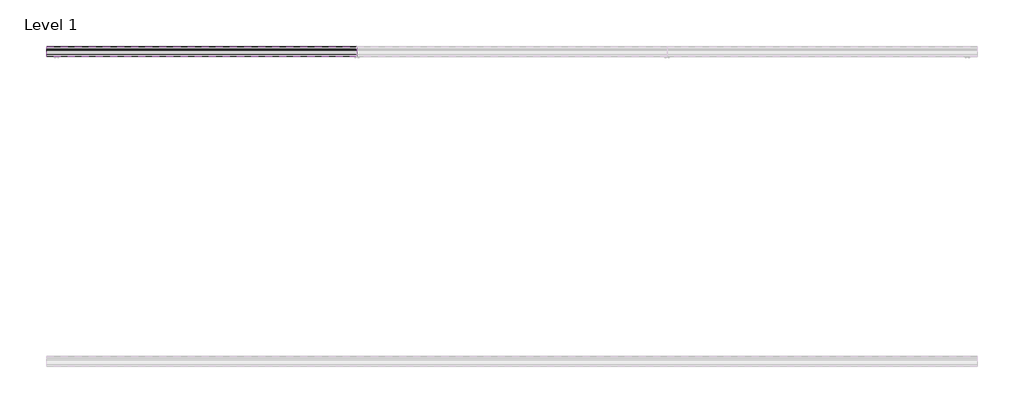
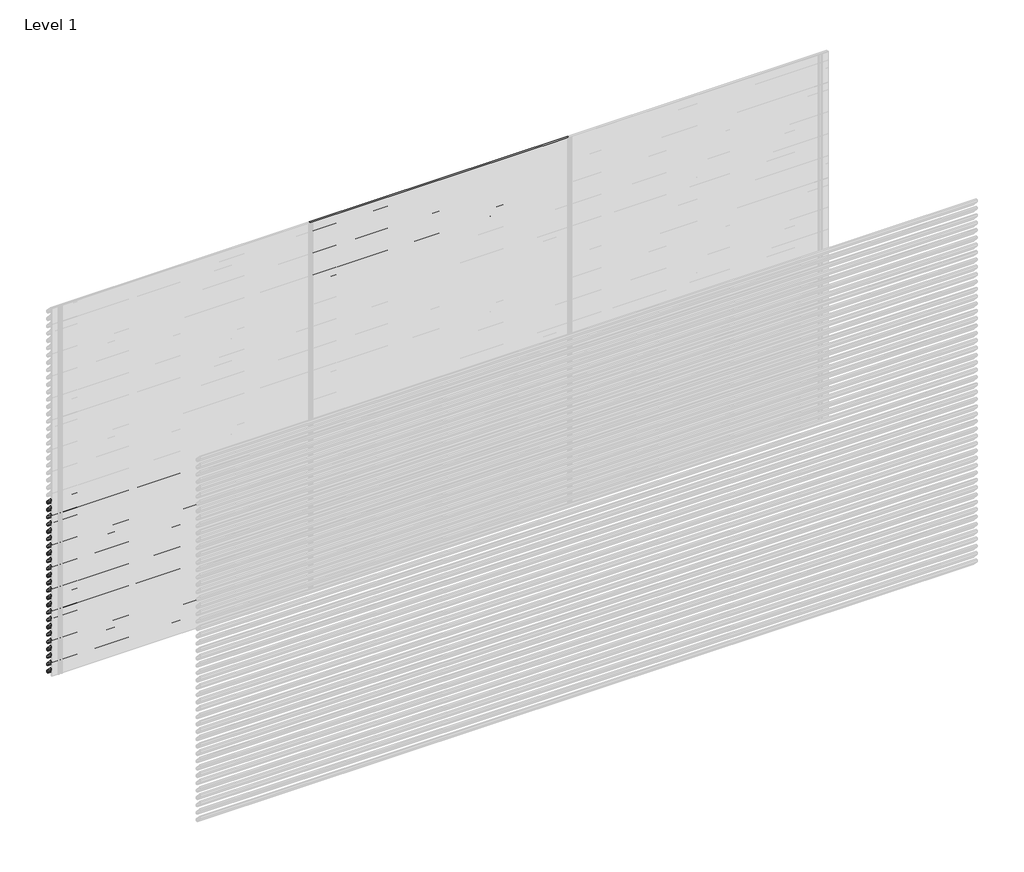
# One storey, part 144 of 153: 33 proxies.
"""IFC4 building model written with IfcOpenShell, lengths in millimetres."""

from ifc_helpers import new_model, si_unit, point, frame, frame_2d, origin, place, context, project, spatial, polyline, circle_curve, trimmed, segment, composite_curve, outline, extrude, element, save

model = new_model("IFC4")

# Units and contexts
model_context = context("Model", 3, world=origin())
ifc_project = project(units=[si_unit("LENGTHUNIT", "METRE", prefix="MILLI")], contexts=[model_context])

# Site, building, storey
site = spatial("IfcSite", under=ifc_project)
building = spatial("IfcBuilding", under=site)
storey = spatial("IfcBuildingStorey", under=building, Name="Level 1", Elevation=0.0)

# Proxies
placement = place(None, origin())
element("IfcBuildingElementProxy", 1, Name="Wall Sweeps", at=placement, inside=storey, context=model_context, shape_type="SweptSolid", body=[
    extrude(outline(composite_curve([segment(polyline([(73985.0540136, 1440.0), (73999.874191, 1438.7034025), (74049.0540136, 1385.0102749), (74049.0540136, 1373.6108187)]), True, "CONTINUOUS"), segment(trimmed(circle_curve(frame_2d((74045.7883652, 1373.897153)), 3.2781774), [point((74049.0540136, 1373.6108187))], [point((74046.4639442, 1370.6893438))], False, "CARTESIAN"), True, "CONTINUOUS"), segment(polyline([(74046.4639442, 1370.6893438), (74034.1895723, 1371.6282758), (73985.0540136, 1425.2730773), (73985.0540136, 1440.0)]), True, "CONTINUOUS")], self_intersect=False), holes=[composite_curve([segment(polyline([(73999.1621773, 1437.2599659), (73986.5540136, 1438.3630372), (73986.5540136, 1425.856213), (74034.8952036, 1373.0786805), (74046.3312542, 1372.2038762)]), True, "CONTINUOUS"), segment(trimmed(circle_curve(frame_2d((74045.7883652, 1373.897153)), 1.7781774), [point((74046.3312542, 1372.2038762))], [point((74047.5540136, 1373.6864389))], True, "CARTESIAN"), True, "CONTINUOUS"), segment(polyline([(74047.5540136, 1373.6864389), (74047.5540136, 1384.4271392), (73999.1621773, 1437.2599659)]), True, "CONTINUOUS")], self_intersect=False)]), frame((44966.6208097, 0.0, 0.0), z_axis=(1.0, 0.0, 0.0), x_axis=(0.0, 1.0, 0.0)), (0.0, 0.0, 1.0), 2000.0000001),
])
element("IfcBuildingElementProxy", 2, Name="Wall Sweeps", at=placement, inside=storey, context=model_context, shape_type="SweptSolid", body=[
    extrude(outline(composite_curve([segment(polyline([(73985.0540136, 1380.0), (73999.874191, 1378.7034025), (74049.0540136, 1325.0102749), (74049.0540136, 1313.6108187)]), True, "CONTINUOUS"), segment(trimmed(circle_curve(frame_2d((74045.7883652, 1313.897153)), 3.2781774), [point((74049.0540136, 1313.6108187))], [point((74046.4639442, 1310.6893438))], False, "CARTESIAN"), True, "CONTINUOUS"), segment(polyline([(74046.4639442, 1310.6893438), (74034.1895723, 1311.6282758), (73985.0540136, 1365.2730773), (73985.0540136, 1380.0)]), True, "CONTINUOUS")], self_intersect=False), holes=[composite_curve([segment(polyline([(73999.1621773, 1377.2599659), (73986.5540136, 1378.3630372), (73986.5540136, 1365.856213), (74034.8952036, 1313.0786805), (74046.3312542, 1312.2038762)]), True, "CONTINUOUS"), segment(trimmed(circle_curve(frame_2d((74045.7883652, 1313.897153)), 1.7781774), [point((74046.3312542, 1312.2038762))], [point((74047.5540136, 1313.6864389))], True, "CARTESIAN"), True, "CONTINUOUS"), segment(polyline([(74047.5540136, 1313.6864389), (74047.5540136, 1324.4271392), (73999.1621773, 1377.2599659)]), True, "CONTINUOUS")], self_intersect=False)]), frame((44966.6208097, 0.0, 0.0), z_axis=(1.0, 0.0, 0.0), x_axis=(0.0, 1.0, 0.0)), (0.0, 0.0, 1.0), 2000.0000001),
])
element("IfcBuildingElementProxy", 3, Name="Wall Sweeps", at=placement, inside=storey, context=model_context, shape_type="SweptSolid", body=[
    extrude(outline(composite_curve([segment(polyline([(73985.0540136, 1320.0), (73999.874191, 1318.7034025), (74049.0540136, 1265.0102749), (74049.0540136, 1253.6108187)]), True, "CONTINUOUS"), segment(trimmed(circle_curve(frame_2d((74045.7883652, 1253.897153)), 3.2781774), [point((74049.0540136, 1253.6108187))], [point((74046.4639442, 1250.6893438))], False, "CARTESIAN"), True, "CONTINUOUS"), segment(polyline([(74046.4639442, 1250.6893438), (74034.1895723, 1251.6282758), (73985.0540136, 1305.2730773), (73985.0540136, 1320.0)]), True, "CONTINUOUS")], self_intersect=False), holes=[composite_curve([segment(polyline([(73999.1621773, 1317.2599659), (73986.5540136, 1318.3630372), (73986.5540136, 1305.856213), (74034.8952036, 1253.0786805), (74046.3312542, 1252.2038762)]), True, "CONTINUOUS"), segment(trimmed(circle_curve(frame_2d((74045.7883652, 1253.897153)), 1.7781774), [point((74046.3312542, 1252.2038762))], [point((74047.5540136, 1253.6864389))], True, "CARTESIAN"), True, "CONTINUOUS"), segment(polyline([(74047.5540136, 1253.6864389), (74047.5540136, 1264.4271392), (73999.1621773, 1317.2599659)]), True, "CONTINUOUS")], self_intersect=False)]), frame((44966.6208097, 0.0, 0.0), z_axis=(1.0, 0.0, 0.0), x_axis=(0.0, 1.0, 0.0)), (0.0, 0.0, 1.0), 2000.0000001),
])
element("IfcBuildingElementProxy", 4, Name="Wall Sweeps", at=placement, inside=storey, context=model_context, shape_type="SweptSolid", body=[
    extrude(outline(composite_curve([segment(polyline([(73985.0540136, 1260.0), (73999.874191, 1258.7034025), (74049.0540136, 1205.0102749), (74049.0540136, 1193.6108187)]), True, "CONTINUOUS"), segment(trimmed(circle_curve(frame_2d((74045.7883652, 1193.897153)), 3.2781774), [point((74049.0540136, 1193.6108187))], [point((74046.4639442, 1190.6893438))], False, "CARTESIAN"), True, "CONTINUOUS"), segment(polyline([(74046.4639442, 1190.6893438), (74034.1895723, 1191.6282758), (73985.0540136, 1245.2730773), (73985.0540136, 1260.0)]), True, "CONTINUOUS")], self_intersect=False), holes=[composite_curve([segment(polyline([(73999.1621773, 1257.2599659), (73986.5540136, 1258.3630372), (73986.5540136, 1245.856213), (74034.8952036, 1193.0786805), (74046.3312542, 1192.2038762)]), True, "CONTINUOUS"), segment(trimmed(circle_curve(frame_2d((74045.7883652, 1193.897153)), 1.7781774), [point((74046.3312542, 1192.2038762))], [point((74047.5540136, 1193.6864389))], True, "CARTESIAN"), True, "CONTINUOUS"), segment(polyline([(74047.5540136, 1193.6864389), (74047.5540136, 1204.4271392), (73999.1621773, 1257.2599659)]), True, "CONTINUOUS")], self_intersect=False)]), frame((44966.6208097, 0.0, 0.0), z_axis=(1.0, 0.0, 0.0), x_axis=(0.0, 1.0, 0.0)), (0.0, 0.0, 1.0), 2000.0000001),
])
element("IfcBuildingElementProxy", 5, Name="Wall Sweeps", at=placement, inside=storey, context=model_context, shape_type="SweptSolid", body=[
    extrude(outline(composite_curve([segment(polyline([(73985.0540136, 1200.0), (73999.874191, 1198.7034025), (74049.0540136, 1145.0102749), (74049.0540136, 1133.6108187)]), True, "CONTINUOUS"), segment(trimmed(circle_curve(frame_2d((74045.7883652, 1133.897153)), 3.2781774), [point((74049.0540136, 1133.6108187))], [point((74046.4639442, 1130.6893438))], False, "CARTESIAN"), True, "CONTINUOUS"), segment(polyline([(74046.4639442, 1130.6893438), (74034.1895723, 1131.6282758), (73985.0540136, 1185.2730773), (73985.0540136, 1200.0)]), True, "CONTINUOUS")], self_intersect=False), holes=[composite_curve([segment(polyline([(73999.1621773, 1197.2599659), (73986.5540136, 1198.3630372), (73986.5540136, 1185.856213), (74034.8952036, 1133.0786805), (74046.3312542, 1132.2038762)]), True, "CONTINUOUS"), segment(trimmed(circle_curve(frame_2d((74045.7883652, 1133.897153)), 1.7781774), [point((74046.3312542, 1132.2038762))], [point((74047.5540136, 1133.6864389))], True, "CARTESIAN"), True, "CONTINUOUS"), segment(polyline([(74047.5540136, 1133.6864389), (74047.5540136, 1144.4271392), (73999.1621773, 1197.2599659)]), True, "CONTINUOUS")], self_intersect=False)]), frame((44966.6208097, 0.0, 0.0), z_axis=(1.0, 0.0, 0.0), x_axis=(0.0, 1.0, 0.0)), (0.0, 0.0, 1.0), 2000.0000001),
])
element("IfcBuildingElementProxy", 6, Name="Wall Sweeps", at=placement, inside=storey, context=model_context, shape_type="SweptSolid", body=[
    extrude(outline(composite_curve([segment(polyline([(73985.0540136, 1140.0), (73999.874191, 1138.7034025), (74049.0540136, 1085.0102749), (74049.0540136, 1073.6108187)]), True, "CONTINUOUS"), segment(trimmed(circle_curve(frame_2d((74045.7883652, 1073.897153)), 3.2781774), [point((74049.0540136, 1073.6108187))], [point((74046.4639442, 1070.6893438))], False, "CARTESIAN"), True, "CONTINUOUS"), segment(polyline([(74046.4639442, 1070.6893438), (74034.1895723, 1071.6282758), (73985.0540136, 1125.2730773), (73985.0540136, 1140.0)]), True, "CONTINUOUS")], self_intersect=False), holes=[composite_curve([segment(polyline([(73999.1621773, 1137.2599659), (73986.5540136, 1138.3630372), (73986.5540136, 1125.856213), (74034.8952036, 1073.0786805), (74046.3312542, 1072.2038762)]), True, "CONTINUOUS"), segment(trimmed(circle_curve(frame_2d((74045.7883652, 1073.897153)), 1.7781774), [point((74046.3312542, 1072.2038762))], [point((74047.5540136, 1073.6864389))], True, "CARTESIAN"), True, "CONTINUOUS"), segment(polyline([(74047.5540136, 1073.6864389), (74047.5540136, 1084.4271392), (73999.1621773, 1137.2599659)]), True, "CONTINUOUS")], self_intersect=False)]), frame((44966.6208097, 0.0, 0.0), z_axis=(1.0, 0.0, 0.0), x_axis=(0.0, 1.0, 0.0)), (0.0, 0.0, 1.0), 2000.0000001),
])
element("IfcBuildingElementProxy", 7, Name="Wall Sweeps", at=placement, inside=storey, context=model_context, shape_type="SweptSolid", body=[
    extrude(outline(composite_curve([segment(polyline([(73985.0540136, 1080.0), (73999.874191, 1078.7034025), (74049.0540136, 1025.0102749), (74049.0540136, 1013.6108187)]), True, "CONTINUOUS"), segment(trimmed(circle_curve(frame_2d((74045.7883652, 1013.897153)), 3.2781774), [point((74049.0540136, 1013.6108187))], [point((74046.4639442, 1010.6893438))], False, "CARTESIAN"), True, "CONTINUOUS"), segment(polyline([(74046.4639442, 1010.6893438), (74034.1895723, 1011.6282758), (73985.0540136, 1065.2730773), (73985.0540136, 1080.0)]), True, "CONTINUOUS")], self_intersect=False), holes=[composite_curve([segment(polyline([(73999.1621773, 1077.2599659), (73986.5540136, 1078.3630372), (73986.5540136, 1065.856213), (74034.8952036, 1013.0786805), (74046.3312542, 1012.2038762)]), True, "CONTINUOUS"), segment(trimmed(circle_curve(frame_2d((74045.7883652, 1013.897153)), 1.7781774), [point((74046.3312542, 1012.2038762))], [point((74047.5540136, 1013.6864389))], True, "CARTESIAN"), True, "CONTINUOUS"), segment(polyline([(74047.5540136, 1013.6864389), (74047.5540136, 1024.4271392), (73999.1621773, 1077.2599659)]), True, "CONTINUOUS")], self_intersect=False)]), frame((44966.6208097, 0.0, 0.0), z_axis=(1.0, 0.0, 0.0), x_axis=(0.0, 1.0, 0.0)), (0.0, 0.0, 1.0), 2000.0000001),
])
element("IfcBuildingElementProxy", 8, Name="Wall Sweeps", at=placement, inside=storey, context=model_context, shape_type="SweptSolid", body=[
    extrude(outline(composite_curve([segment(polyline([(73985.0540136, 1020.0), (73999.874191, 1018.7034025), (74049.0540136, 965.0102749), (74049.0540136, 953.6108187)]), True, "CONTINUOUS"), segment(trimmed(circle_curve(frame_2d((74045.7883652, 953.897153)), 3.2781774), [point((74049.0540136, 953.6108187))], [point((74046.4639442, 950.6893438))], False, "CARTESIAN"), True, "CONTINUOUS"), segment(polyline([(74046.4639442, 950.6893438), (74034.1895723, 951.6282758), (73985.0540136, 1005.2730773), (73985.0540136, 1020.0)]), True, "CONTINUOUS")], self_intersect=False), holes=[composite_curve([segment(polyline([(73999.1621773, 1017.2599659), (73986.5540136, 1018.3630372), (73986.5540136, 1005.856213), (74034.8952036, 953.0786805), (74046.3312542, 952.2038762)]), True, "CONTINUOUS"), segment(trimmed(circle_curve(frame_2d((74045.7883652, 953.897153)), 1.7781774), [point((74046.3312542, 952.2038762))], [point((74047.5540136, 953.6864389))], True, "CARTESIAN"), True, "CONTINUOUS"), segment(polyline([(74047.5540136, 953.6864389), (74047.5540136, 964.4271392), (73999.1621773, 1017.2599659)]), True, "CONTINUOUS")], self_intersect=False)]), frame((44966.6208097, 0.0, 0.0), z_axis=(1.0, 0.0, 0.0), x_axis=(0.0, 1.0, 0.0)), (0.0, 0.0, 1.0), 2000.0000001),
])
element("IfcBuildingElementProxy", 9, Name="Wall Sweeps", at=placement, inside=storey, context=model_context, shape_type="SweptSolid", body=[
    extrude(outline(composite_curve([segment(polyline([(73985.0540136, 960.0), (73999.874191, 958.7034025), (74049.0540136, 905.0102749), (74049.0540136, 893.6108187)]), True, "CONTINUOUS"), segment(trimmed(circle_curve(frame_2d((74045.7883652, 893.897153)), 3.2781774), [point((74049.0540136, 893.6108187))], [point((74046.4639442, 890.6893438))], False, "CARTESIAN"), True, "CONTINUOUS"), segment(polyline([(74046.4639442, 890.6893438), (74034.1895723, 891.6282758), (73985.0540136, 945.2730773), (73985.0540136, 960.0)]), True, "CONTINUOUS")], self_intersect=False), holes=[composite_curve([segment(polyline([(73999.1621773, 957.2599659), (73986.5540136, 958.3630372), (73986.5540136, 945.856213), (74034.8952036, 893.0786805), (74046.3312542, 892.2038762)]), True, "CONTINUOUS"), segment(trimmed(circle_curve(frame_2d((74045.7883652, 893.897153)), 1.7781774), [point((74046.3312542, 892.2038762))], [point((74047.5540136, 893.6864389))], True, "CARTESIAN"), True, "CONTINUOUS"), segment(polyline([(74047.5540136, 893.6864389), (74047.5540136, 904.4271392), (73999.1621773, 957.2599659)]), True, "CONTINUOUS")], self_intersect=False)]), frame((44966.6208097, 0.0, 0.0), z_axis=(1.0, 0.0, 0.0), x_axis=(0.0, 1.0, 0.0)), (0.0, 0.0, 1.0), 2000.0000001),
])
element("IfcBuildingElementProxy", 10, Name="Wall Sweeps", at=placement, inside=storey, context=model_context, shape_type="SweptSolid", body=[
    extrude(outline(composite_curve([segment(polyline([(73985.0540136, 900.0), (73999.874191, 898.7034025), (74049.0540136, 845.0102749), (74049.0540136, 833.6108187)]), True, "CONTINUOUS"), segment(trimmed(circle_curve(frame_2d((74045.7883652, 833.897153)), 3.2781774), [point((74049.0540136, 833.6108187))], [point((74046.4639442, 830.6893438))], False, "CARTESIAN"), True, "CONTINUOUS"), segment(polyline([(74046.4639442, 830.6893438), (74034.1895723, 831.6282758), (73985.0540136, 885.2730773), (73985.0540136, 900.0)]), True, "CONTINUOUS")], self_intersect=False), holes=[composite_curve([segment(polyline([(73999.1621773, 897.2599659), (73986.5540136, 898.3630372), (73986.5540136, 885.856213), (74034.8952036, 833.0786805), (74046.3312542, 832.2038762)]), True, "CONTINUOUS"), segment(trimmed(circle_curve(frame_2d((74045.7883652, 833.897153)), 1.7781774), [point((74046.3312542, 832.2038762))], [point((74047.5540136, 833.6864389))], True, "CARTESIAN"), True, "CONTINUOUS"), segment(polyline([(74047.5540136, 833.6864389), (74047.5540136, 844.4271392), (73999.1621773, 897.2599659)]), True, "CONTINUOUS")], self_intersect=False)]), frame((44966.6208097, 0.0, 0.0), z_axis=(1.0, 0.0, 0.0), x_axis=(0.0, 1.0, 0.0)), (0.0, 0.0, 1.0), 2000.0000001),
])
element("IfcBuildingElementProxy", 11, Name="Wall Sweeps", at=placement, inside=storey, context=model_context, shape_type="SweptSolid", body=[
    extrude(outline(composite_curve([segment(polyline([(73985.0540136, 840.0), (73999.874191, 838.7034025), (74049.0540136, 785.0102749), (74049.0540136, 773.6108187)]), True, "CONTINUOUS"), segment(trimmed(circle_curve(frame_2d((74045.7883652, 773.897153)), 3.2781774), [point((74049.0540136, 773.6108187))], [point((74046.4639442, 770.6893438))], False, "CARTESIAN"), True, "CONTINUOUS"), segment(polyline([(74046.4639442, 770.6893438), (74034.1895723, 771.6282758), (73985.0540136, 825.2730773), (73985.0540136, 840.0)]), True, "CONTINUOUS")], self_intersect=False), holes=[composite_curve([segment(polyline([(73999.1621773, 837.2599659), (73986.5540136, 838.3630372), (73986.5540136, 825.856213), (74034.8952036, 773.0786805), (74046.3312542, 772.2038762)]), True, "CONTINUOUS"), segment(trimmed(circle_curve(frame_2d((74045.7883652, 773.897153)), 1.7781774), [point((74046.3312542, 772.2038762))], [point((74047.5540136, 773.6864389))], True, "CARTESIAN"), True, "CONTINUOUS"), segment(polyline([(74047.5540136, 773.6864389), (74047.5540136, 784.4271392), (73999.1621773, 837.2599659)]), True, "CONTINUOUS")], self_intersect=False)]), frame((44966.6208097, 0.0, 0.0), z_axis=(1.0, 0.0, 0.0), x_axis=(0.0, 1.0, 0.0)), (0.0, 0.0, 1.0), 2000.0000001),
])
element("IfcBuildingElementProxy", 12, Name="Wall Sweeps", at=placement, inside=storey, context=model_context, shape_type="SweptSolid", body=[
    extrude(outline(composite_curve([segment(polyline([(73985.0540136, 780.0), (73999.874191, 778.7034025), (74049.0540136, 725.0102749), (74049.0540136, 713.6108187)]), True, "CONTINUOUS"), segment(trimmed(circle_curve(frame_2d((74045.7883652, 713.897153)), 3.2781774), [point((74049.0540136, 713.6108187))], [point((74046.4639442, 710.6893438))], False, "CARTESIAN"), True, "CONTINUOUS"), segment(polyline([(74046.4639442, 710.6893438), (74034.1895723, 711.6282758), (73985.0540136, 765.2730773), (73985.0540136, 780.0)]), True, "CONTINUOUS")], self_intersect=False), holes=[composite_curve([segment(polyline([(73999.1621773, 777.2599659), (73986.5540136, 778.3630372), (73986.5540136, 765.856213), (74034.8952036, 713.0786805), (74046.3312542, 712.2038762)]), True, "CONTINUOUS"), segment(trimmed(circle_curve(frame_2d((74045.7883652, 713.897153)), 1.7781774), [point((74046.3312542, 712.2038762))], [point((74047.5540136, 713.6864389))], True, "CARTESIAN"), True, "CONTINUOUS"), segment(polyline([(74047.5540136, 713.6864389), (74047.5540136, 724.4271392), (73999.1621773, 777.2599659)]), True, "CONTINUOUS")], self_intersect=False)]), frame((44966.6208097, 0.0, 0.0), z_axis=(1.0, 0.0, 0.0), x_axis=(0.0, 1.0, 0.0)), (0.0, 0.0, 1.0), 2000.0000001),
])
element("IfcBuildingElementProxy", 13, Name="Wall Sweeps", at=placement, inside=storey, context=model_context, shape_type="SweptSolid", body=[
    extrude(outline(composite_curve([segment(polyline([(73985.0540136, 720.0), (73999.874191, 718.7034025), (74049.0540136, 665.0102749), (74049.0540136, 653.6108187)]), True, "CONTINUOUS"), segment(trimmed(circle_curve(frame_2d((74045.7883652, 653.897153)), 3.2781774), [point((74049.0540136, 653.6108187))], [point((74046.4639442, 650.6893438))], False, "CARTESIAN"), True, "CONTINUOUS"), segment(polyline([(74046.4639442, 650.6893438), (74034.1895723, 651.6282758), (73985.0540136, 705.2730773), (73985.0540136, 720.0)]), True, "CONTINUOUS")], self_intersect=False), holes=[composite_curve([segment(polyline([(73999.1621773, 717.2599659), (73986.5540136, 718.3630372), (73986.5540136, 705.856213), (74034.8952036, 653.0786805), (74046.3312542, 652.2038762)]), True, "CONTINUOUS"), segment(trimmed(circle_curve(frame_2d((74045.7883652, 653.897153)), 1.7781774), [point((74046.3312542, 652.2038762))], [point((74047.5540136, 653.6864389))], True, "CARTESIAN"), True, "CONTINUOUS"), segment(polyline([(74047.5540136, 653.6864389), (74047.5540136, 664.4271392), (73999.1621773, 717.2599659)]), True, "CONTINUOUS")], self_intersect=False)]), frame((44966.6208097, 0.0, 0.0), z_axis=(1.0, 0.0, 0.0), x_axis=(0.0, 1.0, 0.0)), (0.0, 0.0, 1.0), 2000.0000001),
])
element("IfcBuildingElementProxy", 14, Name="Wall Sweeps", at=placement, inside=storey, context=model_context, shape_type="SweptSolid", body=[
    extrude(outline(composite_curve([segment(polyline([(73985.0540136, 660.0), (73999.874191, 658.7034025), (74049.0540136, 605.0102749), (74049.0540136, 593.6108187)]), True, "CONTINUOUS"), segment(trimmed(circle_curve(frame_2d((74045.7883652, 593.897153)), 3.2781774), [point((74049.0540136, 593.6108187))], [point((74046.4639442, 590.6893438))], False, "CARTESIAN"), True, "CONTINUOUS"), segment(polyline([(74046.4639442, 590.6893438), (74034.1895723, 591.6282758), (73985.0540136, 645.2730773), (73985.0540136, 660.0)]), True, "CONTINUOUS")], self_intersect=False), holes=[composite_curve([segment(polyline([(73999.1621773, 657.2599659), (73986.5540136, 658.3630372), (73986.5540136, 645.856213), (74034.8952036, 593.0786805), (74046.3312542, 592.2038762)]), True, "CONTINUOUS"), segment(trimmed(circle_curve(frame_2d((74045.7883652, 593.897153)), 1.7781774), [point((74046.3312542, 592.2038762))], [point((74047.5540136, 593.6864389))], True, "CARTESIAN"), True, "CONTINUOUS"), segment(polyline([(74047.5540136, 593.6864389), (74047.5540136, 604.4271392), (73999.1621773, 657.2599659)]), True, "CONTINUOUS")], self_intersect=False)]), frame((44966.6208097, 0.0, 0.0), z_axis=(1.0, 0.0, 0.0), x_axis=(0.0, 1.0, 0.0)), (0.0, 0.0, 1.0), 2000.0000001),
])
element("IfcBuildingElementProxy", 15, Name="Wall Sweeps", at=placement, inside=storey, context=model_context, shape_type="SweptSolid", body=[
    extrude(outline(composite_curve([segment(polyline([(73985.0540136, 600.0), (73999.874191, 598.7034025), (74049.0540136, 545.0102749), (74049.0540136, 533.6108187)]), True, "CONTINUOUS"), segment(trimmed(circle_curve(frame_2d((74045.7883652, 533.897153)), 3.2781774), [point((74049.0540136, 533.6108187))], [point((74046.4639442, 530.6893438))], False, "CARTESIAN"), True, "CONTINUOUS"), segment(polyline([(74046.4639442, 530.6893438), (74034.1895723, 531.6282758), (73985.0540136, 585.2730773), (73985.0540136, 600.0)]), True, "CONTINUOUS")], self_intersect=False), holes=[composite_curve([segment(polyline([(73999.1621773, 597.2599659), (73986.5540136, 598.3630372), (73986.5540136, 585.856213), (74034.8952036, 533.0786805), (74046.3312542, 532.2038762)]), True, "CONTINUOUS"), segment(trimmed(circle_curve(frame_2d((74045.7883652, 533.897153)), 1.7781774), [point((74046.3312542, 532.2038762))], [point((74047.5540136, 533.6864389))], True, "CARTESIAN"), True, "CONTINUOUS"), segment(polyline([(74047.5540136, 533.6864389), (74047.5540136, 544.4271392), (73999.1621773, 597.2599659)]), True, "CONTINUOUS")], self_intersect=False)]), frame((44966.6208097, 0.0, 0.0), z_axis=(1.0, 0.0, 0.0), x_axis=(0.0, 1.0, 0.0)), (0.0, 0.0, 1.0), 2000.0000001),
])
element("IfcBuildingElementProxy", 16, Name="Wall Sweeps", at=placement, inside=storey, context=model_context, shape_type="SweptSolid", body=[
    extrude(outline(composite_curve([segment(polyline([(73985.0540136, 540.0), (73999.874191, 538.7034025), (74049.0540136, 485.0102749), (74049.0540136, 473.6108187)]), True, "CONTINUOUS"), segment(trimmed(circle_curve(frame_2d((74045.7883652, 473.897153)), 3.2781774), [point((74049.0540136, 473.6108187))], [point((74046.4639442, 470.6893438))], False, "CARTESIAN"), True, "CONTINUOUS"), segment(polyline([(74046.4639442, 470.6893438), (74034.1895723, 471.6282758), (73985.0540136, 525.2730773), (73985.0540136, 540.0)]), True, "CONTINUOUS")], self_intersect=False), holes=[composite_curve([segment(polyline([(73999.1621773, 537.2599659), (73986.5540136, 538.3630372), (73986.5540136, 525.856213), (74034.8952036, 473.0786805), (74046.3312542, 472.2038762)]), True, "CONTINUOUS"), segment(trimmed(circle_curve(frame_2d((74045.7883652, 473.897153)), 1.7781774), [point((74046.3312542, 472.2038762))], [point((74047.5540136, 473.6864389))], True, "CARTESIAN"), True, "CONTINUOUS"), segment(polyline([(74047.5540136, 473.6864389), (74047.5540136, 484.4271392), (73999.1621773, 537.2599659)]), True, "CONTINUOUS")], self_intersect=False)]), frame((44966.6208097, 0.0, 0.0), z_axis=(1.0, 0.0, 0.0), x_axis=(0.0, 1.0, 0.0)), (0.0, 0.0, 1.0), 2000.0000001),
])
element("IfcBuildingElementProxy", 17, Name="Wall Sweeps", at=placement, inside=storey, context=model_context, shape_type="SweptSolid", body=[
    extrude(outline(composite_curve([segment(polyline([(73985.0540136, 480.0), (73999.874191, 478.7034025), (74049.0540136, 425.0102749), (74049.0540136, 413.6108187)]), True, "CONTINUOUS"), segment(trimmed(circle_curve(frame_2d((74045.7883652, 413.897153)), 3.2781774), [point((74049.0540136, 413.6108187))], [point((74046.4639442, 410.6893438))], False, "CARTESIAN"), True, "CONTINUOUS"), segment(polyline([(74046.4639442, 410.6893438), (74034.1895723, 411.6282758), (73985.0540136, 465.2730773), (73985.0540136, 480.0)]), True, "CONTINUOUS")], self_intersect=False), holes=[composite_curve([segment(polyline([(73999.1621773, 477.2599659), (73986.5540136, 478.3630372), (73986.5540136, 465.856213), (74034.8952036, 413.0786805), (74046.3312542, 412.2038762)]), True, "CONTINUOUS"), segment(trimmed(circle_curve(frame_2d((74045.7883652, 413.897153)), 1.7781774), [point((74046.3312542, 412.2038762))], [point((74047.5540136, 413.6864389))], True, "CARTESIAN"), True, "CONTINUOUS"), segment(polyline([(74047.5540136, 413.6864389), (74047.5540136, 424.4271392), (73999.1621773, 477.2599659)]), True, "CONTINUOUS")], self_intersect=False)]), frame((44966.6208097, 0.0, 0.0), z_axis=(1.0, 0.0, 0.0), x_axis=(0.0, 1.0, 0.0)), (0.0, 0.0, 1.0), 2000.0000001),
])
element("IfcBuildingElementProxy", 18, Name="Wall Sweeps", at=placement, inside=storey, context=model_context, shape_type="SweptSolid", body=[
    extrude(outline(composite_curve([segment(polyline([(73985.0540136, 420.0), (73999.874191, 418.7034025), (74049.0540136, 365.0102749), (74049.0540136, 353.6108187)]), True, "CONTINUOUS"), segment(trimmed(circle_curve(frame_2d((74045.7883652, 353.897153)), 3.2781774), [point((74049.0540136, 353.6108187))], [point((74046.4639442, 350.6893438))], False, "CARTESIAN"), True, "CONTINUOUS"), segment(polyline([(74046.4639442, 350.6893438), (74034.1895723, 351.6282758), (73985.0540136, 405.2730773), (73985.0540136, 420.0)]), True, "CONTINUOUS")], self_intersect=False), holes=[composite_curve([segment(polyline([(73999.1621773, 417.2599659), (73986.5540136, 418.3630372), (73986.5540136, 405.856213), (74034.8952036, 353.0786805), (74046.3312542, 352.2038762)]), True, "CONTINUOUS"), segment(trimmed(circle_curve(frame_2d((74045.7883652, 353.897153)), 1.7781774), [point((74046.3312542, 352.2038762))], [point((74047.5540136, 353.6864389))], True, "CARTESIAN"), True, "CONTINUOUS"), segment(polyline([(74047.5540136, 353.6864389), (74047.5540136, 364.4271392), (73999.1621773, 417.2599659)]), True, "CONTINUOUS")], self_intersect=False)]), frame((44966.6208097, 0.0, 0.0), z_axis=(1.0, 0.0, 0.0), x_axis=(0.0, 1.0, 0.0)), (0.0, 0.0, 1.0), 2000.0000001),
])
element("IfcBuildingElementProxy", 19, Name="Wall Sweeps", at=placement, inside=storey, context=model_context, shape_type="SweptSolid", body=[
    extrude(outline(composite_curve([segment(polyline([(73985.0540136, 360.0), (73999.874191, 358.7034025), (74049.0540136, 305.0102749), (74049.0540136, 293.6108187)]), True, "CONTINUOUS"), segment(trimmed(circle_curve(frame_2d((74045.7883652, 293.897153)), 3.2781774), [point((74049.0540136, 293.6108187))], [point((74046.4639442, 290.6893438))], False, "CARTESIAN"), True, "CONTINUOUS"), segment(polyline([(74046.4639442, 290.6893438), (74034.1895723, 291.6282758), (73985.0540136, 345.2730773), (73985.0540136, 360.0)]), True, "CONTINUOUS")], self_intersect=False), holes=[composite_curve([segment(polyline([(73999.1621773, 357.2599659), (73986.5540136, 358.3630372), (73986.5540136, 345.856213), (74034.8952036, 293.0786805), (74046.3312542, 292.2038762)]), True, "CONTINUOUS"), segment(trimmed(circle_curve(frame_2d((74045.7883652, 293.897153)), 1.7781774), [point((74046.3312542, 292.2038762))], [point((74047.5540136, 293.6864389))], True, "CARTESIAN"), True, "CONTINUOUS"), segment(polyline([(74047.5540136, 293.6864389), (74047.5540136, 304.4271392), (73999.1621773, 357.2599659)]), True, "CONTINUOUS")], self_intersect=False)]), frame((44966.6208097, 0.0, 0.0), z_axis=(1.0, 0.0, 0.0), x_axis=(0.0, 1.0, 0.0)), (0.0, 0.0, 1.0), 2000.0000001),
])
element("IfcBuildingElementProxy", 20, Name="Wall Sweeps", at=placement, inside=storey, context=model_context, shape_type="SweptSolid", body=[
    extrude(outline(composite_curve([segment(polyline([(73985.0540136, 300.0), (73999.874191, 298.7034025), (74049.0540136, 245.0102749), (74049.0540136, 233.6108187)]), True, "CONTINUOUS"), segment(trimmed(circle_curve(frame_2d((74045.7883652, 233.897153)), 3.2781774), [point((74049.0540136, 233.6108187))], [point((74046.4639442, 230.6893438))], False, "CARTESIAN"), True, "CONTINUOUS"), segment(polyline([(74046.4639442, 230.6893438), (74034.1895723, 231.6282758), (73985.0540136, 285.2730773), (73985.0540136, 300.0)]), True, "CONTINUOUS")], self_intersect=False), holes=[composite_curve([segment(polyline([(73999.1621773, 297.2599659), (73986.5540136, 298.3630372), (73986.5540136, 285.856213), (74034.8952036, 233.0786805), (74046.3312542, 232.2038762)]), True, "CONTINUOUS"), segment(trimmed(circle_curve(frame_2d((74045.7883652, 233.897153)), 1.7781774), [point((74046.3312542, 232.2038762))], [point((74047.5540136, 233.6864389))], True, "CARTESIAN"), True, "CONTINUOUS"), segment(polyline([(74047.5540136, 233.6864389), (74047.5540136, 244.4271392), (73999.1621773, 297.2599659)]), True, "CONTINUOUS")], self_intersect=False)]), frame((44966.6208097, 0.0, 0.0), z_axis=(1.0, 0.0, 0.0), x_axis=(0.0, 1.0, 0.0)), (0.0, 0.0, 1.0), 2000.0000001),
])
element("IfcBuildingElementProxy", 21, Name="Wall Sweeps", at=placement, inside=storey, context=model_context, shape_type="SweptSolid", body=[
    extrude(outline(composite_curve([segment(polyline([(73985.0540136, 240.0), (73999.874191, 238.7034025), (74049.0540136, 185.0102749), (74049.0540136, 173.6108187)]), True, "CONTINUOUS"), segment(trimmed(circle_curve(frame_2d((74045.7883652, 173.897153)), 3.2781774), [point((74049.0540136, 173.6108187))], [point((74046.4639442, 170.6893438))], False, "CARTESIAN"), True, "CONTINUOUS"), segment(polyline([(74046.4639442, 170.6893438), (74034.1895723, 171.6282758), (73985.0540136, 225.2730773), (73985.0540136, 240.0)]), True, "CONTINUOUS")], self_intersect=False), holes=[composite_curve([segment(polyline([(73999.1621773, 237.2599659), (73986.5540136, 238.3630372), (73986.5540136, 225.856213), (74034.8952036, 173.0786805), (74046.3312542, 172.2038762)]), True, "CONTINUOUS"), segment(trimmed(circle_curve(frame_2d((74045.7883652, 173.897153)), 1.7781774), [point((74046.3312542, 172.2038762))], [point((74047.5540136, 173.6864389))], True, "CARTESIAN"), True, "CONTINUOUS"), segment(polyline([(74047.5540136, 173.6864389), (74047.5540136, 184.4271392), (73999.1621773, 237.2599659)]), True, "CONTINUOUS")], self_intersect=False)]), frame((44966.6208097, 0.0, 0.0), z_axis=(1.0, 0.0, 0.0), x_axis=(0.0, 1.0, 0.0)), (0.0, 0.0, 1.0), 2000.0000001),
])
element("IfcBuildingElementProxy", 22, Name="Wall Sweeps", at=placement, inside=storey, context=model_context, shape_type="SweptSolid", body=[
    extrude(outline(composite_curve([segment(polyline([(73985.0540136, 180.0), (73999.874191, 178.7034025), (74049.0540136, 125.0102749), (74049.0540136, 113.6108187)]), True, "CONTINUOUS"), segment(trimmed(circle_curve(frame_2d((74045.7883652, 113.897153)), 3.2781774), [point((74049.0540136, 113.6108187))], [point((74046.4639442, 110.6893438))], False, "CARTESIAN"), True, "CONTINUOUS"), segment(polyline([(74046.4639442, 110.6893438), (74034.1895723, 111.6282758), (73985.0540136, 165.2730773), (73985.0540136, 180.0)]), True, "CONTINUOUS")], self_intersect=False), holes=[composite_curve([segment(polyline([(73999.1621773, 177.2599659), (73986.5540136, 178.3630372), (73986.5540136, 165.856213), (74034.8952036, 113.0786805), (74046.3312542, 112.2038762)]), True, "CONTINUOUS"), segment(trimmed(circle_curve(frame_2d((74045.7883652, 113.897153)), 1.7781774), [point((74046.3312542, 112.2038762))], [point((74047.5540136, 113.6864389))], True, "CARTESIAN"), True, "CONTINUOUS"), segment(polyline([(74047.5540136, 113.6864389), (74047.5540136, 124.4271392), (73999.1621773, 177.2599659)]), True, "CONTINUOUS")], self_intersect=False)]), frame((44966.6208097, 0.0, 0.0), z_axis=(1.0, 0.0, 0.0), x_axis=(0.0, 1.0, 0.0)), (0.0, 0.0, 1.0), 2000.0000001),
])
element("IfcBuildingElementProxy", 23, Name="Wall Sweeps", at=placement, inside=storey, context=model_context, shape_type="SweptSolid", body=[
    extrude(outline(composite_curve([segment(polyline([(73985.0540136, 120.0), (73999.874191, 118.7034025), (74049.0540136, 65.0102749), (74049.0540136, 53.6108187)]), True, "CONTINUOUS"), segment(trimmed(circle_curve(frame_2d((74045.7883652, 53.897153)), 3.2781774), [point((74049.0540136, 53.6108187))], [point((74046.4639442, 50.6893438))], False, "CARTESIAN"), True, "CONTINUOUS"), segment(polyline([(74046.4639442, 50.6893438), (74034.1895723, 51.6282758), (73985.0540136, 105.2730773), (73985.0540136, 120.0)]), True, "CONTINUOUS")], self_intersect=False), holes=[composite_curve([segment(polyline([(73999.1621773, 117.2599659), (73986.5540136, 118.3630372), (73986.5540136, 105.856213), (74034.8952036, 53.0786805), (74046.3312542, 52.2038762)]), True, "CONTINUOUS"), segment(trimmed(circle_curve(frame_2d((74045.7883652, 53.897153)), 1.7781774), [point((74046.3312542, 52.2038762))], [point((74047.5540136, 53.6864389))], True, "CARTESIAN"), True, "CONTINUOUS"), segment(polyline([(74047.5540136, 53.6864389), (74047.5540136, 64.4271392), (73999.1621773, 117.2599659)]), True, "CONTINUOUS")], self_intersect=False)]), frame((44966.6208097, 0.0, 0.0), z_axis=(1.0, 0.0, 0.0), x_axis=(0.0, 1.0, 0.0)), (0.0, 0.0, 1.0), 2000.0000001),
])
element("IfcBuildingElementProxy", 24, Name="Wall Sweeps", at=placement, inside=storey, context=model_context, shape_type="SweptSolid", body=[
    extrude(outline(composite_curve([segment(polyline([(73985.0540136, 60.0), (73999.874191, 58.7034025), (74049.0540136, 5.0102749), (74049.0540136, -6.3891813)]), True, "CONTINUOUS"), segment(trimmed(circle_curve(frame_2d((74045.7883652, -6.102847)), 3.2781774), [point((74049.0540136, -6.3891813))], [point((74046.4639442, -9.3106562))], False, "CARTESIAN"), True, "CONTINUOUS"), segment(polyline([(74046.4639442, -9.3106562), (74034.1895723, -8.3717242), (73985.0540136, 45.2730773), (73985.0540136, 60.0)]), True, "CONTINUOUS")], self_intersect=False), holes=[composite_curve([segment(polyline([(73999.1621773, 57.2599659), (73986.5540136, 58.3630372), (73986.5540136, 45.856213), (74034.8952036, -6.9213195), (74046.3312542, -7.7961238)]), True, "CONTINUOUS"), segment(trimmed(circle_curve(frame_2d((74045.7883652, -6.102847)), 1.7781774), [point((74046.3312542, -7.7961238))], [point((74047.5540136, -6.3135611))], True, "CARTESIAN"), True, "CONTINUOUS"), segment(polyline([(74047.5540136, -6.3135611), (74047.5540136, 4.4271392), (73999.1621773, 57.2599659)]), True, "CONTINUOUS")], self_intersect=False)]), frame((44966.6208097, 0.0, 0.0), z_axis=(1.0, 0.0, 0.0), x_axis=(0.0, 1.0, 0.0)), (0.0, 0.0, 1.0), 2000.0000001),
])
element("IfcBuildingElementProxy", 25, Name="Wall Sweeps", at=placement, inside=storey, context=model_context, shape_type="SweptSolid", body=[
    extrude(outline(composite_curve([segment(polyline([(73985.0540136, 3000.0), (73999.874191, 2998.7034025), (74049.0540136, 2945.0102749), (74049.0540136, 2933.6108187)]), True, "CONTINUOUS"), segment(trimmed(circle_curve(frame_2d((74045.7883652, 2933.897153)), 3.2781774), [point((74049.0540136, 2933.6108187))], [point((74046.4639442, 2930.6893438))], False, "CARTESIAN"), True, "CONTINUOUS"), segment(polyline([(74046.4639442, 2930.6893438), (74034.1895723, 2931.6282758), (73985.0540136, 2985.2730773), (73985.0540136, 3000.0)]), True, "CONTINUOUS")], self_intersect=False), holes=[composite_curve([segment(polyline([(73999.1621773, 2997.2599659), (73986.5540136, 2998.3630372), (73986.5540136, 2985.856213), (74034.8952036, 2933.0786805), (74046.3312542, 2932.2038762)]), True, "CONTINUOUS"), segment(trimmed(circle_curve(frame_2d((74045.7883652, 2933.897153)), 1.7781774), [point((74046.3312542, 2932.2038762))], [point((74047.5540136, 2933.6864389))], True, "CARTESIAN"), True, "CONTINUOUS"), segment(polyline([(74047.5540136, 2933.6864389), (74047.5540136, 2944.4271392), (73999.1621773, 2997.2599659)]), True, "CONTINUOUS")], self_intersect=False)]), frame((46966.6208098, 0.0, 0.0), z_axis=(1.0, 0.0, 0.0), x_axis=(0.0, 1.0, 0.0)), (0.0, 0.0, 1.0), 1999.9999998),
])
element("IfcBuildingElementProxy", 26, Name="Wall Sweeps", at=placement, inside=storey, context=model_context, shape_type="SweptSolid", body=[
    extrude(outline(composite_curve([segment(polyline([(73985.0540136, 2940.0), (73999.874191, 2938.7034025), (74049.0540136, 2885.0102749), (74049.0540136, 2873.6108187)]), True, "CONTINUOUS"), segment(trimmed(circle_curve(frame_2d((74045.7883652, 2873.897153)), 3.2781774), [point((74049.0540136, 2873.6108187))], [point((74046.4639442, 2870.6893438))], False, "CARTESIAN"), True, "CONTINUOUS"), segment(polyline([(74046.4639442, 2870.6893438), (74034.1895723, 2871.6282758), (73985.0540136, 2925.2730773), (73985.0540136, 2940.0)]), True, "CONTINUOUS")], self_intersect=False), holes=[composite_curve([segment(polyline([(73999.1621773, 2937.2599659), (73986.5540136, 2938.3630372), (73986.5540136, 2925.856213), (74034.8952036, 2873.0786805), (74046.3312542, 2872.2038762)]), True, "CONTINUOUS"), segment(trimmed(circle_curve(frame_2d((74045.7883652, 2873.897153)), 1.7781774), [point((74046.3312542, 2872.2038762))], [point((74047.5540136, 2873.6864389))], True, "CARTESIAN"), True, "CONTINUOUS"), segment(polyline([(74047.5540136, 2873.6864389), (74047.5540136, 2884.4271392), (73999.1621773, 2937.2599659)]), True, "CONTINUOUS")], self_intersect=False)]), frame((46966.6208098, 0.0, 0.0), z_axis=(1.0, 0.0, 0.0), x_axis=(0.0, 1.0, 0.0)), (0.0, 0.0, 1.0), 1999.9999998),
])
element("IfcBuildingElementProxy", 27, Name="Wall Sweeps", at=placement, inside=storey, context=model_context, shape_type="SweptSolid", body=[
    extrude(outline(composite_curve([segment(polyline([(73985.0540136, 2880.0), (73999.874191, 2878.7034025), (74049.0540136, 2825.0102749), (74049.0540136, 2813.6108187)]), True, "CONTINUOUS"), segment(trimmed(circle_curve(frame_2d((74045.7883652, 2813.897153)), 3.2781774), [point((74049.0540136, 2813.6108187))], [point((74046.4639442, 2810.6893438))], False, "CARTESIAN"), True, "CONTINUOUS"), segment(polyline([(74046.4639442, 2810.6893438), (74034.1895723, 2811.6282758), (73985.0540136, 2865.2730773), (73985.0540136, 2880.0)]), True, "CONTINUOUS")], self_intersect=False), holes=[composite_curve([segment(polyline([(73999.1621773, 2877.2599659), (73986.5540136, 2878.3630372), (73986.5540136, 2865.856213), (74034.8952036, 2813.0786805), (74046.3312542, 2812.2038762)]), True, "CONTINUOUS"), segment(trimmed(circle_curve(frame_2d((74045.7883652, 2813.897153)), 1.7781774), [point((74046.3312542, 2812.2038762))], [point((74047.5540136, 2813.6864389))], True, "CARTESIAN"), True, "CONTINUOUS"), segment(polyline([(74047.5540136, 2813.6864389), (74047.5540136, 2824.4271392), (73999.1621773, 2877.2599659)]), True, "CONTINUOUS")], self_intersect=False)]), frame((46966.6208098, 0.0, 0.0), z_axis=(1.0, 0.0, 0.0), x_axis=(0.0, 1.0, 0.0)), (0.0, 0.0, 1.0), 1999.9999998),
])
element("IfcBuildingElementProxy", 28, Name="Wall Sweeps", at=placement, inside=storey, context=model_context, shape_type="SweptSolid", body=[
    extrude(outline(composite_curve([segment(polyline([(73985.0540136, 2820.0), (73999.874191, 2818.7034025), (74049.0540136, 2765.0102749), (74049.0540136, 2753.6108187)]), True, "CONTINUOUS"), segment(trimmed(circle_curve(frame_2d((74045.7883652, 2753.897153)), 3.2781774), [point((74049.0540136, 2753.6108187))], [point((74046.4639442, 2750.6893438))], False, "CARTESIAN"), True, "CONTINUOUS"), segment(polyline([(74046.4639442, 2750.6893438), (74034.1895723, 2751.6282758), (73985.0540136, 2805.2730773), (73985.0540136, 2820.0)]), True, "CONTINUOUS")], self_intersect=False), holes=[composite_curve([segment(polyline([(73999.1621773, 2817.2599659), (73986.5540136, 2818.3630372), (73986.5540136, 2805.856213), (74034.8952036, 2753.0786805), (74046.3312542, 2752.2038762)]), True, "CONTINUOUS"), segment(trimmed(circle_curve(frame_2d((74045.7883652, 2753.897153)), 1.7781774), [point((74046.3312542, 2752.2038762))], [point((74047.5540136, 2753.6864389))], True, "CARTESIAN"), True, "CONTINUOUS"), segment(polyline([(74047.5540136, 2753.6864389), (74047.5540136, 2764.4271392), (73999.1621773, 2817.2599659)]), True, "CONTINUOUS")], self_intersect=False)]), frame((46966.6208098, 0.0, 0.0), z_axis=(1.0, 0.0, 0.0), x_axis=(0.0, 1.0, 0.0)), (0.0, 0.0, 1.0), 1999.9999998),
])
element("IfcBuildingElementProxy", 29, Name="Wall Sweeps", at=placement, inside=storey, context=model_context, shape_type="SweptSolid", body=[
    extrude(outline(composite_curve([segment(polyline([(73985.0540136, 2760.0), (73999.874191, 2758.7034025), (74049.0540136, 2705.0102749), (74049.0540136, 2693.6108187)]), True, "CONTINUOUS"), segment(trimmed(circle_curve(frame_2d((74045.7883652, 2693.897153)), 3.2781774), [point((74049.0540136, 2693.6108187))], [point((74046.4639442, 2690.6893438))], False, "CARTESIAN"), True, "CONTINUOUS"), segment(polyline([(74046.4639442, 2690.6893438), (74034.1895723, 2691.6282758), (73985.0540136, 2745.2730773), (73985.0540136, 2760.0)]), True, "CONTINUOUS")], self_intersect=False), holes=[composite_curve([segment(polyline([(73999.1621773, 2757.2599659), (73986.5540136, 2758.3630372), (73986.5540136, 2745.856213), (74034.8952036, 2693.0786805), (74046.3312542, 2692.2038762)]), True, "CONTINUOUS"), segment(trimmed(circle_curve(frame_2d((74045.7883652, 2693.897153)), 1.7781774), [point((74046.3312542, 2692.2038762))], [point((74047.5540136, 2693.6864389))], True, "CARTESIAN"), True, "CONTINUOUS"), segment(polyline([(74047.5540136, 2693.6864389), (74047.5540136, 2704.4271392), (73999.1621773, 2757.2599659)]), True, "CONTINUOUS")], self_intersect=False)]), frame((46966.6208098, 0.0, 0.0), z_axis=(1.0, 0.0, 0.0), x_axis=(0.0, 1.0, 0.0)), (0.0, 0.0, 1.0), 1999.9999998),
])
element("IfcBuildingElementProxy", 30, Name="Wall Sweeps", at=placement, inside=storey, context=model_context, shape_type="SweptSolid", body=[
    extrude(outline(composite_curve([segment(polyline([(73985.0540136, 2700.0), (73999.874191, 2698.7034025), (74049.0540136, 2645.0102749), (74049.0540136, 2633.6108187)]), True, "CONTINUOUS"), segment(trimmed(circle_curve(frame_2d((74045.7883652, 2633.897153)), 3.2781774), [point((74049.0540136, 2633.6108187))], [point((74046.4639442, 2630.6893438))], False, "CARTESIAN"), True, "CONTINUOUS"), segment(polyline([(74046.4639442, 2630.6893438), (74034.1895723, 2631.6282758), (73985.0540136, 2685.2730773), (73985.0540136, 2700.0)]), True, "CONTINUOUS")], self_intersect=False), holes=[composite_curve([segment(polyline([(73999.1621773, 2697.2599659), (73986.5540136, 2698.3630372), (73986.5540136, 2685.856213), (74034.8952036, 2633.0786805), (74046.3312542, 2632.2038762)]), True, "CONTINUOUS"), segment(trimmed(circle_curve(frame_2d((74045.7883652, 2633.897153)), 1.7781774), [point((74046.3312542, 2632.2038762))], [point((74047.5540136, 2633.6864389))], True, "CARTESIAN"), True, "CONTINUOUS"), segment(polyline([(74047.5540136, 2633.6864389), (74047.5540136, 2644.4271392), (73999.1621773, 2697.2599659)]), True, "CONTINUOUS")], self_intersect=False)]), frame((46966.6208098, 0.0, 0.0), z_axis=(1.0, 0.0, 0.0), x_axis=(0.0, 1.0, 0.0)), (0.0, 0.0, 1.0), 1999.9999998),
])
element("IfcBuildingElementProxy", 31, Name="Wall Sweeps", at=placement, inside=storey, context=model_context, shape_type="SweptSolid", body=[
    extrude(outline(composite_curve([segment(polyline([(73985.0540136, 2640.0), (73999.874191, 2638.7034025), (74049.0540136, 2585.0102749), (74049.0540136, 2573.6108187)]), True, "CONTINUOUS"), segment(trimmed(circle_curve(frame_2d((74045.7883652, 2573.897153)), 3.2781774), [point((74049.0540136, 2573.6108187))], [point((74046.4639442, 2570.6893438))], False, "CARTESIAN"), True, "CONTINUOUS"), segment(polyline([(74046.4639442, 2570.6893438), (74034.1895723, 2571.6282758), (73985.0540136, 2625.2730773), (73985.0540136, 2640.0)]), True, "CONTINUOUS")], self_intersect=False), holes=[composite_curve([segment(polyline([(73999.1621773, 2637.2599659), (73986.5540136, 2638.3630372), (73986.5540136, 2625.856213), (74034.8952036, 2573.0786805), (74046.3312542, 2572.2038762)]), True, "CONTINUOUS"), segment(trimmed(circle_curve(frame_2d((74045.7883652, 2573.897153)), 1.7781774), [point((74046.3312542, 2572.2038762))], [point((74047.5540136, 2573.6864389))], True, "CARTESIAN"), True, "CONTINUOUS"), segment(polyline([(74047.5540136, 2573.6864389), (74047.5540136, 2584.4271392), (73999.1621773, 2637.2599659)]), True, "CONTINUOUS")], self_intersect=False)]), frame((46966.6208098, 0.0, 0.0), z_axis=(1.0, 0.0, 0.0), x_axis=(0.0, 1.0, 0.0)), (0.0, 0.0, 1.0), 1999.9999998),
])
element("IfcBuildingElementProxy", 32, Name="Wall Sweeps", at=placement, inside=storey, context=model_context, shape_type="SweptSolid", body=[
    extrude(outline(composite_curve([segment(polyline([(73985.0540136, 2580.0), (73999.874191, 2578.7034025), (74049.0540136, 2525.0102749), (74049.0540136, 2513.6108187)]), True, "CONTINUOUS"), segment(trimmed(circle_curve(frame_2d((74045.7883652, 2513.897153)), 3.2781774), [point((74049.0540136, 2513.6108187))], [point((74046.4639442, 2510.6893438))], False, "CARTESIAN"), True, "CONTINUOUS"), segment(polyline([(74046.4639442, 2510.6893438), (74034.1895723, 2511.6282758), (73985.0540136, 2565.2730773), (73985.0540136, 2580.0)]), True, "CONTINUOUS")], self_intersect=False), holes=[composite_curve([segment(polyline([(73999.1621773, 2577.2599659), (73986.5540136, 2578.3630372), (73986.5540136, 2565.856213), (74034.8952036, 2513.0786805), (74046.3312542, 2512.2038762)]), True, "CONTINUOUS"), segment(trimmed(circle_curve(frame_2d((74045.7883652, 2513.897153)), 1.7781774), [point((74046.3312542, 2512.2038762))], [point((74047.5540136, 2513.6864389))], True, "CARTESIAN"), True, "CONTINUOUS"), segment(polyline([(74047.5540136, 2513.6864389), (74047.5540136, 2524.4271392), (73999.1621773, 2577.2599659)]), True, "CONTINUOUS")], self_intersect=False)]), frame((46966.6208098, 0.0, 0.0), z_axis=(1.0, 0.0, 0.0), x_axis=(0.0, 1.0, 0.0)), (0.0, 0.0, 1.0), 1999.9999998),
])
element("IfcBuildingElementProxy", 33, Name="Wall Sweeps", at=placement, inside=storey, context=model_context, shape_type="SweptSolid", body=[
    extrude(outline(composite_curve([segment(polyline([(73985.0540136, 2520.0), (73999.874191, 2518.7034025), (74049.0540136, 2465.0102749), (74049.0540136, 2453.6108187)]), True, "CONTINUOUS"), segment(trimmed(circle_curve(frame_2d((74045.7883652, 2453.897153)), 3.2781774), [point((74049.0540136, 2453.6108187))], [point((74046.4639442, 2450.6893438))], False, "CARTESIAN"), True, "CONTINUOUS"), segment(polyline([(74046.4639442, 2450.6893438), (74034.1895723, 2451.6282758), (73985.0540136, 2505.2730773), (73985.0540136, 2520.0)]), True, "CONTINUOUS")], self_intersect=False), holes=[composite_curve([segment(polyline([(73999.1621773, 2517.2599659), (73986.5540136, 2518.3630372), (73986.5540136, 2505.856213), (74034.8952036, 2453.0786805), (74046.3312542, 2452.2038762)]), True, "CONTINUOUS"), segment(trimmed(circle_curve(frame_2d((74045.7883652, 2453.897153)), 1.7781774), [point((74046.3312542, 2452.2038762))], [point((74047.5540136, 2453.6864389))], True, "CARTESIAN"), True, "CONTINUOUS"), segment(polyline([(74047.5540136, 2453.6864389), (74047.5540136, 2464.4271392), (73999.1621773, 2517.2599659)]), True, "CONTINUOUS")], self_intersect=False)]), frame((46966.6208098, 0.0, 0.0), z_axis=(1.0, 0.0, 0.0), x_axis=(0.0, 1.0, 0.0)), (0.0, 0.0, 1.0), 1999.9999998),
])

save(model, "model.ifc")
